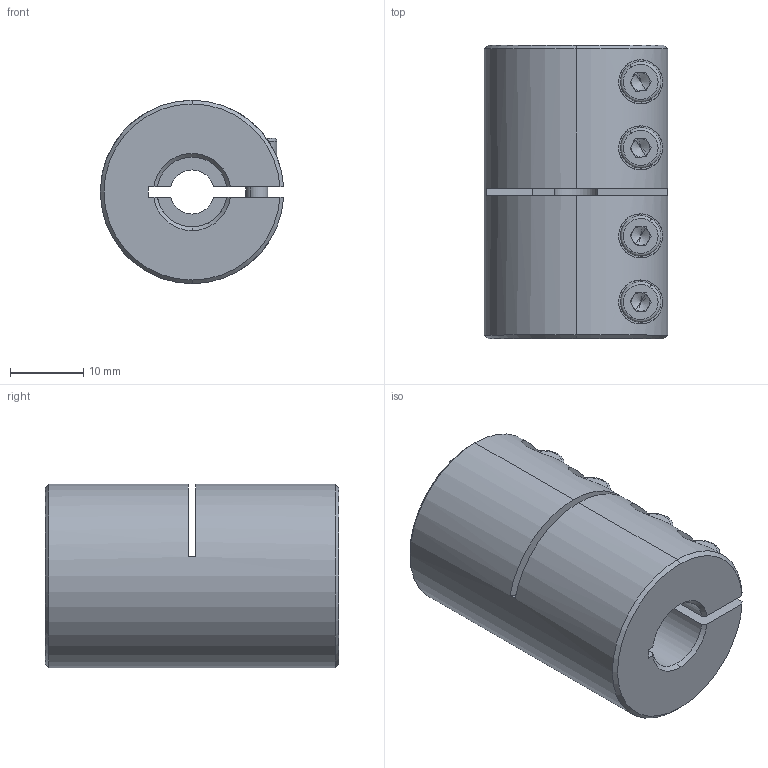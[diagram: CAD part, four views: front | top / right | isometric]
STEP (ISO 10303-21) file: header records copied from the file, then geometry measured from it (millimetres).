
FILE_DESCRIPTION (( 'STEP AP214' ), '1' );
FILE_NAME ('LL-B-D25L40-6-9.525½¨Ä£.STEP', '2022-07-21T05:09:01', ( '' ), ( '' ), 'SwSTEP 2.0', 'SolidWorks 2022', '' );
FILE_SCHEMA (( 'AUTOMOTIVE_DESIGN' ));
Length unit declared in the file: millimetre
Products named in the file (1): LL-B-D25L40-6-9.525膘耀
Bounding box: 24.98 x 40 x 25 mm (x, y, z)
Volume: 16524.5 mm3; surface area: 7143.4 mm2
Topology: 1 solids, 1 shells, 178 faces, 455 edges, 287 vertices
Faces by surface type: plane 85, cylinder 65, cone 20, torus 8
Entity records: 5838 total; most frequent: CARTESIAN_POINT 1437, DIRECTION 946, ORIENTED_EDGE 894, EDGE_CURVE 447, AXIS2_PLACEMENT_3D 364, VERTEX_POINT 287, VECTOR 218, LINE 218
